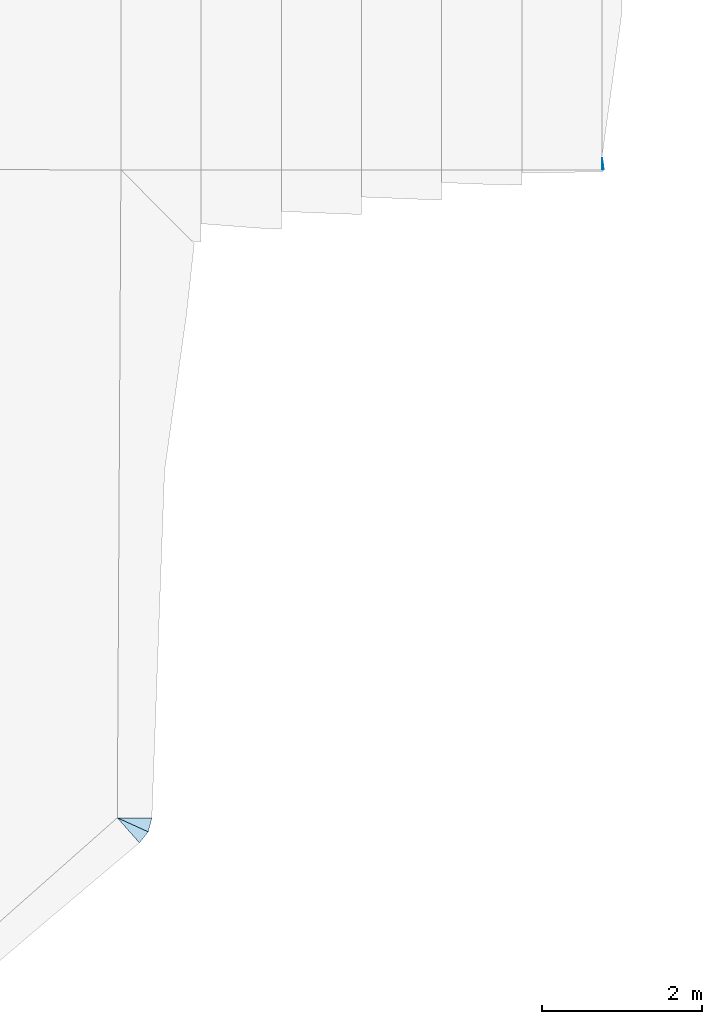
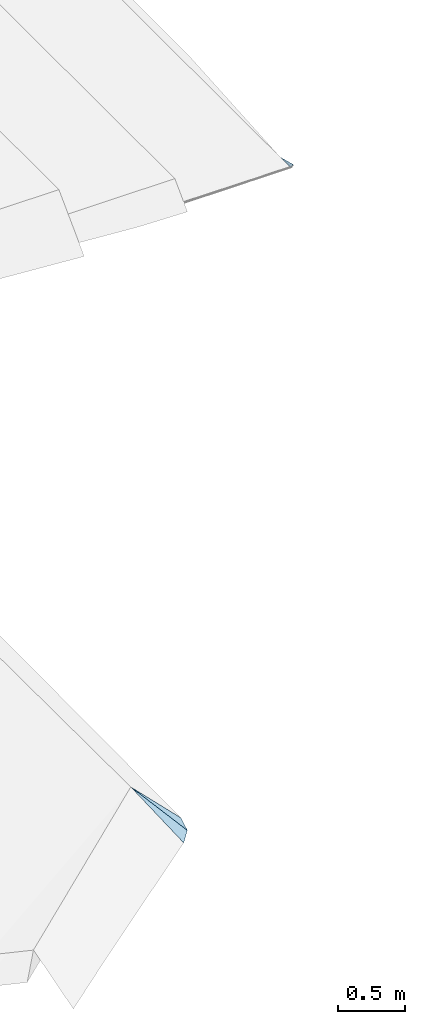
# One storey, part 9 of 14: 3 slabs.
"""IFC2X3 building model written with IfcOpenShell, lengths in metres."""

from ifc_helpers import new_model, si_unit, origin, origin_with_axes, place, context, subcontext, project, spatial, faceted_brep, element, save


model = new_model("IFC2X3")

# Units and contexts
context_of_model = context(None, 3, world=origin_with_axes())
sub_context = subcontext(context_of_model, None, None, "MODEL_VIEW")
ifc_project = project(units=[si_unit("LENGTHUNIT", "METRE"), si_unit("AREAUNIT", "SQUARE_METRE"), si_unit("VOLUMEUNIT", "CUBIC_METRE"), si_unit("PLANEANGLEUNIT", "RADIAN"), si_unit("MASSUNIT", "GRAM", prefix="KILO")])

# Site, building, storey
site_placement = place(None, origin_with_axes())
site = spatial("IfcSite", under=ifc_project, at=site_placement, Name="Site.1", CompositionType="ELEMENT")
building_placement = place(site_placement, origin())
building = spatial("IfcBuilding", under=site, at=building_placement, Name="Building.1", CompositionType="ELEMENT")
storey_placement = place(building_placement, origin())
storey = spatial("IfcBuildingStorey", under=building, at=storey_placement, Name="VRD", CompositionType="ELEMENT")

# Slabs
slab_1_placement = place(storey_placement, origin())
element("IfcSlab", 1, at=slab_1_placement, inside=storey, Name="PJ FINI n°45", PredefinedType="USERDEFINED", context=sub_context, shape_type="Brep", body=[
    faceted_brep([(46.836556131, -15.736177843, -0.130001), (47.268844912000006, -15.73859737, -0.562296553), (47.268844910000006, -15.738597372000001, -0.562296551), (47.222846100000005, -15.911589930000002, -0.554252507)], [[[0, 1, 2]], [[0, 2, 3]]]),
])
slab_2_placement = place(storey_placement, origin())
element("IfcSlab", 2, at=slab_2_placement, inside=storey, Name="PJ FINI n°103", PredefinedType="USERDEFINED", context=sub_context, shape_type="Brep", body=[
    faceted_brep([(46.836556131, -15.736177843, -0.130001), (47.222846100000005, -15.911589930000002, -0.554252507), (47.112654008, -16.0485174, -0.546877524)], [[[0, 1, 2]]]),
])
slab_3_placement = place(storey_placement, origin())
element("IfcSlab", 3, at=slab_3_placement, inside=storey, Name="PJ FINI n°105", PredefinedType="USERDEFINED", context=sub_context, shape_type="Brep", body=[
    faceted_brep([(52.881781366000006, -7.498072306, -1.499999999), (52.90282699, -7.655936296, -1.478955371), (52.881781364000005, -7.655936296, -1.500000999)], [[[0, 1, 2]]]),
])

save(model, "model.ifc")
